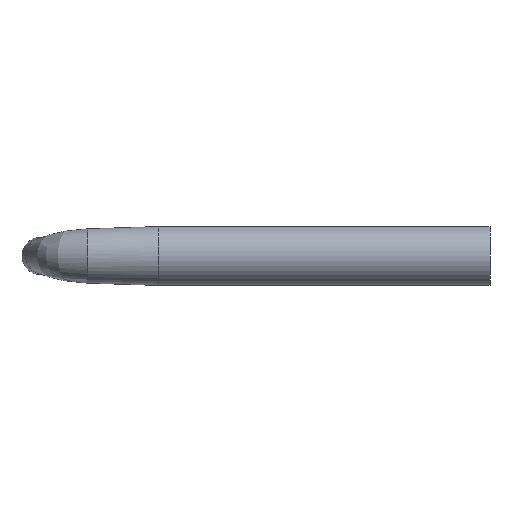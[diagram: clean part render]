
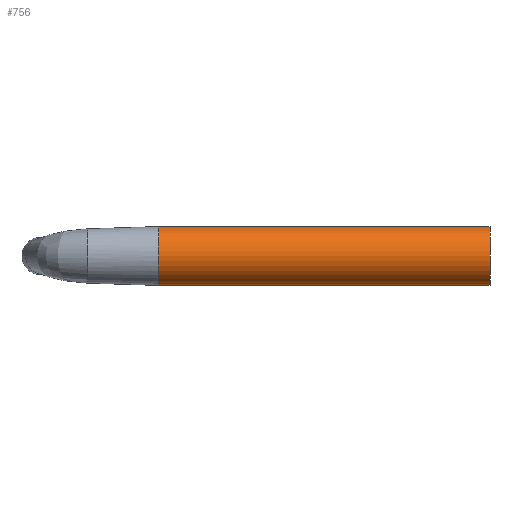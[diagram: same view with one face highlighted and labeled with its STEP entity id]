
A CAD part, front view. The second image highlights one B-rep face of the part: STEP entity #756.
In plain terms, the highlighted cylindrical face has radius 16 mm (diameter 32 mm), a partial arc.
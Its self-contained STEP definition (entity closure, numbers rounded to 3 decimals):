
#756=ADVANCED_FACE('',(#1102),#1101,.T.);
#1101=CYLINDRICAL_SURFACE('',#2348,16.);
#1102=FACE_OUTER_BOUND('',#2349,.T.);
#2345=CARTESIAN_POINT('',(313.195,182.717,0.));
#2346=DIRECTION('',(-1.,0.,0.));
#2347=DIRECTION('',(0.,0.,1.));
#2348=AXIS2_PLACEMENT_3D('',#2345,#2346,#2347);
#2349=EDGE_LOOP('',(#2518,#2519,#2520,#2521));
#2518=ORIENTED_EDGE('',*,*,#2545,.T.);
#2519=ORIENTED_EDGE('',*,*,#2606,.T.);
#2520=ORIENTED_EDGE('',*,*,#2602,.F.);
#2521=ORIENTED_EDGE('',*,*,#2607,.F.);
#2545=EDGE_CURVE('',#2767,#2768,#2769,.T.);
#2602=EDGE_CURVE('',#3141,#3142,#3143,.T.);
#2606=EDGE_CURVE('',#2768,#3142,#3167,.T.);
#2607=EDGE_CURVE('',#2767,#3141,#3173,.T.);
#2767=VERTEX_POINT('',#3320);
#2768=VERTEX_POINT('',#3321);
#2769=CIRCLE('',#3325,16.);
#3141=VERTEX_POINT('',#3578);
#3142=VERTEX_POINT('',#3579);
#3143=CIRCLE('',#3583,16.);
#3167=(BOUNDED_CURVE() B_SPLINE_CURVE(1,(#3592,#3593),.UNSPECIFIED.,.F.,.F.) B_SPLINE_CURVE_WITH_KNOTS((2,2),(0.05,0.95),.UNSPECIFIED.) CURVE() GEOMETRIC_REPRESENTATION_ITEM() RATIONAL_B_SPLINE_CURVE((1.,1.)) REPRESENTATION_ITEM('') );
#3173=(BOUNDED_CURVE() B_SPLINE_CURVE(1,(#3594,#3595),.UNSPECIFIED.,.F.,.F.) B_SPLINE_CURVE_WITH_KNOTS((2,2),(0.05,0.95),.UNSPECIFIED.) CURVE() GEOMETRIC_REPRESENTATION_ITEM() RATIONAL_B_SPLINE_CURVE((0.75,0.75)) REPRESENTATION_ITEM('') );
#3320=CARTESIAN_POINT('',(493.195,182.717,-16.));
#3321=CARTESIAN_POINT('',(493.195,182.717,16.));
#3322=CARTESIAN_POINT('',(493.195,182.717,0.));
#3323=DIRECTION('',(-1.,0.,0.));
#3324=DIRECTION('',(0.,0.,1.));
#3325=AXIS2_PLACEMENT_3D('',#3322,#3323,#3324);
#3578=CARTESIAN_POINT('',(313.195,182.717,-16.));
#3579=CARTESIAN_POINT('',(313.195,182.717,16.));
#3580=CARTESIAN_POINT('',(313.195,182.717,0.));
#3581=DIRECTION('',(-1.,0.,0.));
#3582=DIRECTION('',(0.,0.,1.));
#3583=AXIS2_PLACEMENT_3D('',#3580,#3581,#3582);
#3592=CARTESIAN_POINT('',(493.195,182.717,16.));
#3593=CARTESIAN_POINT('',(313.195,182.717,16.));
#3594=CARTESIAN_POINT('',(493.195,182.717,-16.));
#3595=CARTESIAN_POINT('',(313.195,182.717,-16.));
